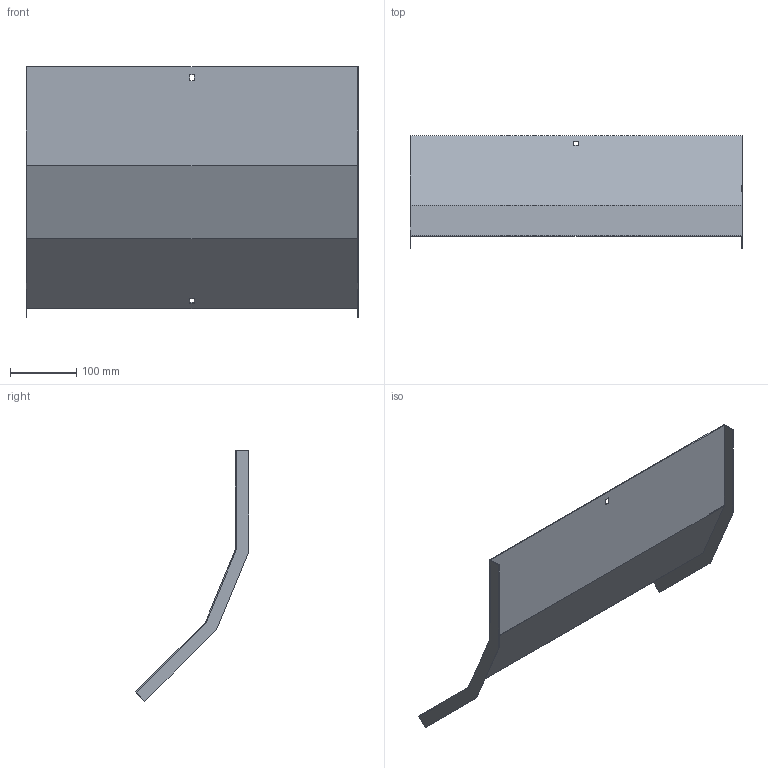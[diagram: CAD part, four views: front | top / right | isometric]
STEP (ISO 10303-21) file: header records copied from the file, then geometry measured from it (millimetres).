
FILE_DESCRIPTION (( 'STEP AP214' ), '1' );
FILE_NAME ('A2X31N3R500X.step', '2025-03-20T09:41:10', ( '' ), ( '' ), 'SwSTEP 2.0', 'SolidWorks 2023', '' );
FILE_SCHEMA (( 'AUTOMOTIVE_DESIGN' ));
Length unit declared in the file: millimetre
Products named in the file (1): A2X31N3R500X
Bounding box: 503 x 171.43 x 379.72 mm (x, y, z)
Volume: 339734.4 mm3; surface area: 455993.7 mm2
Topology: 1 solids, 1 shells, 26 faces, 72 edges, 48 vertices
Faces by surface type: plane 26
Entity records: 847 total; most frequent: CARTESIAN_POINT 147, ORIENTED_EDGE 144, DIRECTION 126, EDGE_CURVE 72, LINE 72, VECTOR 72, VERTEX_POINT 48, EDGE_LOOP 30
